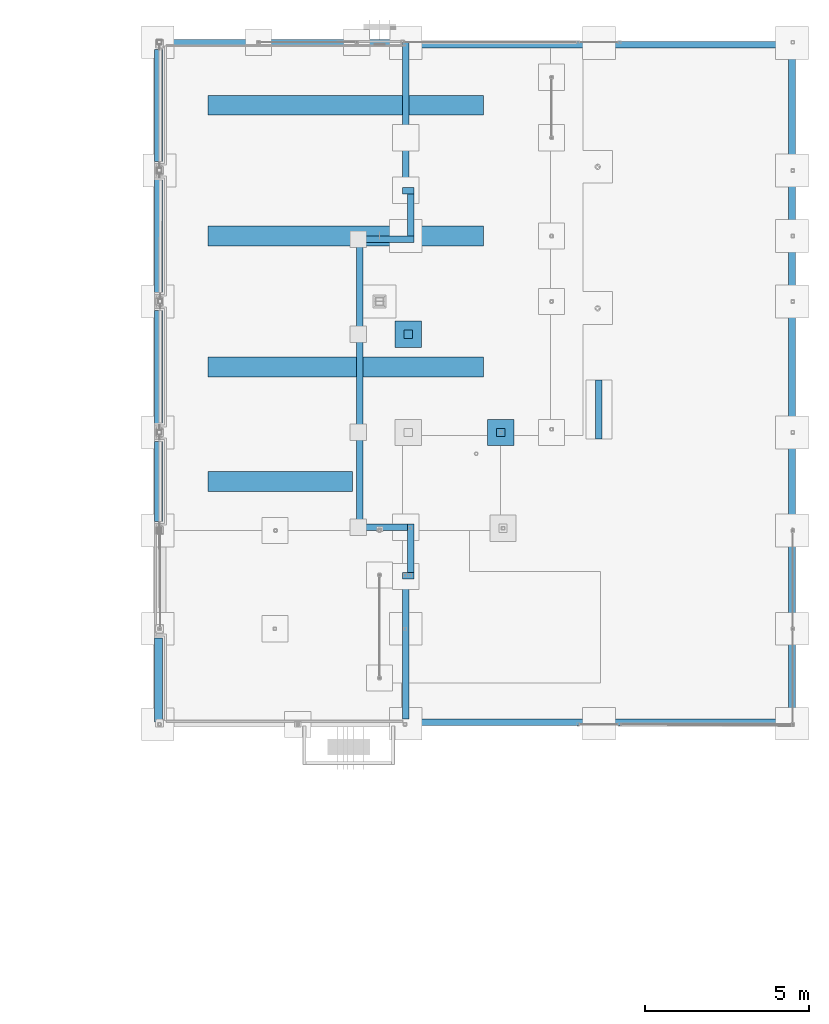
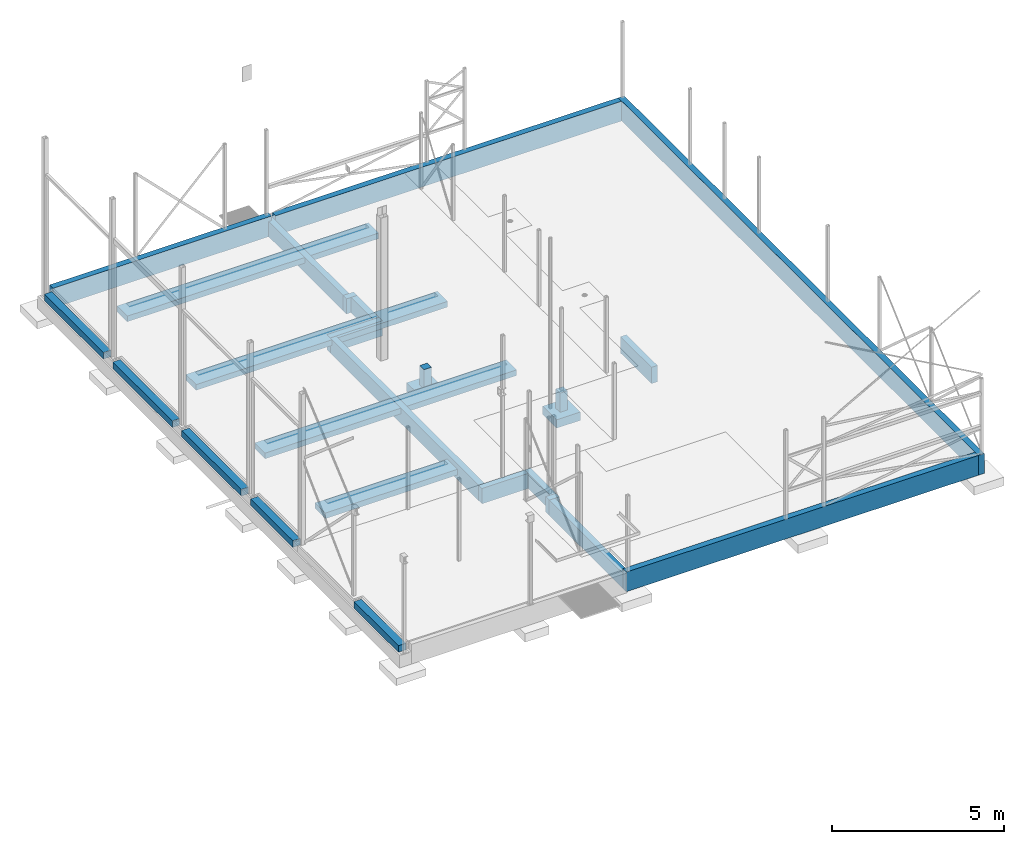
# One storey, part 11 of 18: 23 walls, 2 slabs, 3 openings.
"""IFC2X3 building model written with IfcOpenShell, lengths in millimetres."""

from ifc_helpers import new_model, entity, si_unit, converted_unit, derived_unit, direction, frame, frame_2d, origin, place, context, subcontext, project, spatial, polyline, rectangle, outline, extrude, faceted_brep, material, layer, layer_set, layer_usage, type_object, element, save


model = new_model("IFC2X3")

# Units and contexts
model_context = context("Model", 3, precision=0.01, world=origin(), true_north=direction((6.12303176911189e-17, 1.0)))
body_context = subcontext(model_context, "Body", "Model", "MODEL_VIEW")
ifc_project = project(units=[si_unit("LENGTHUNIT", "METRE", prefix="MILLI"), si_unit("AREAUNIT", "SQUARE_METRE"), si_unit("VOLUMEUNIT", "CUBIC_METRE"), converted_unit("PLANEANGLEUNIT", "DEGREE", entity("IfcRatioMeasure", 0.0174532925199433), si_unit("PLANEANGLEUNIT", "RADIAN"), dimensions=[0, 0, 0, 0, 0, 0, 0]), si_unit("MASSUNIT", "GRAM", prefix="KILO"), derived_unit("MASSDENSITYUNIT", [(si_unit("MASSUNIT", "GRAM", prefix="KILO"), 1), (si_unit("LENGTHUNIT", "METRE"), -3)]), si_unit("TIMEUNIT", "SECOND"), si_unit("FREQUENCYUNIT", "HERTZ"), si_unit("THERMODYNAMICTEMPERATUREUNIT", "DEGREE_CELSIUS"), derived_unit("THERMALTRANSMITTANCEUNIT", [(si_unit("MASSUNIT", "GRAM", prefix="KILO"), 1), (si_unit("THERMODYNAMICTEMPERATUREUNIT", "KELVIN"), -1), (si_unit("TIMEUNIT", "SECOND"), -3)]), derived_unit("VOLUMETRICFLOWRATEUNIT", [(si_unit("LENGTHUNIT", "METRE"), 3), (si_unit("TIMEUNIT", "SECOND"), -1)]), si_unit("ELECTRICCURRENTUNIT", "AMPERE"), si_unit("ELECTRICVOLTAGEUNIT", "VOLT"), si_unit("POWERUNIT", "WATT"), si_unit("FORCEUNIT", "NEWTON", prefix="KILO"), si_unit("ILLUMINANCEUNIT", "LUX"), si_unit("LUMINOUSFLUXUNIT", "LUMEN"), si_unit("LUMINOUSINTENSITYUNIT", "CANDELA"), derived_unit("USERDEFINED", [(si_unit("MASSUNIT", "GRAM", prefix="KILO"), -1), (si_unit("LENGTHUNIT", "METRE"), -2), (si_unit("TIMEUNIT", "SECOND"), 3), (si_unit("LUMINOUSFLUXUNIT", "LUMEN"), 1)]), derived_unit("LINEARVELOCITYUNIT", [(si_unit("LENGTHUNIT", "METRE"), 1), (si_unit("TIMEUNIT", "SECOND"), -1)]), si_unit("PRESSUREUNIT", "PASCAL"), derived_unit("USERDEFINED", [(si_unit("LENGTHUNIT", "METRE"), -2), (si_unit("MASSUNIT", "GRAM", prefix="KILO"), 1), (si_unit("TIMEUNIT", "SECOND"), -2)])], contexts=[model_context])

# Site, building, storey
site_placement = place(None, frame((0.0, 0.0, 101000.0)))
site = spatial("IfcSite", under=ifc_project, at=site_placement, Name="Default", CompositionType="ELEMENT")
building_placement = place(site_placement, origin())
building = spatial("IfcBuilding", under=site, at=building_placement, CompositionType="ELEMENT")
storey_placement = place(building_placement, origin())
storey = spatial("IfcBuildingStorey", under=building, at=storey_placement, Name="01", CompositionType="ELEMENT", Elevation=8.9295595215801e-10)

# Slabs
ifc_material = material(Name="Betong Plasstøpt - B35")
for number, where, name in (
    (1, (13786.2644969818, 32017.9507529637, -1000.0), "Fundament med knast:800x800x300"),
    (2, (10960.9797660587, 35017.9507529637, -1000.0), "Fundament med knast:800x800x300"),
):
    element("IfcSlab", number, at=place(storey_placement, frame(where)), inside=storey, material=ifc_material, Name=name, ObjectType="Fundament med knast:800x800x300", PredefinedType="FLOOR", context=body_context, shape_type="Brep", body=[
        faceted_brep([(800.0, 800.0, 0.0), (800.0, 0.0, 0.0), (0.0, 0.0, 0.0), (0.0, 800.0, 0.0), (800.0, 800.0, 300.0), (800.0, 0.0, 300.0), (0.0, 0.0, 300.0), (0.0, 800.0, 300.0), (525.0, 525.0, 980.0), (275.0, 525.0, 980.0), (275.0, 275.0, 980.0), (525.0, 275.0, 980.0), (525.0, 525.0, 300.0), (275.0, 525.0, 300.0), (275.0, 275.0, 300.0), (525.0, 275.0, 300.0)], [[[0, 1, 2, 3]], [[4, 5, 1, 0]], [[5, 6, 2, 1]], [[6, 7, 3, 2]], [[7, 4, 0, 3]], [[8, 9, 10, 11]], [[9, 8, 12, 13]], [[10, 9, 13, 14]], [[11, 10, 14, 15]], [[8, 11, 15, 12]], [[13, 12, 15, 14], [4, 7, 6, 5]]], outer=[[True], [True], [True], [True], [True], [True], [True], [True], [True], [True], [False, True]]),
    ])

# Walls
ifc_layer_1 = layer(ifc_material, 200.0)
ifc_layer_set_1 = layer_set([ifc_layer_1], Name="Basic Wall:OPPKANT B=200, (140)")
ifc_layer_usage_1 = layer_usage(ifc_layer_set_1, "AXIS2", "NEGATIVE", 100.0)
wall_type_1 = type_object("IfcWallType", Name="Basic Wall:OPPKANT B=200, (140)", PredefinedType="STANDARD", material=ifc_layer_set_1)
wall_1_placement = place(storey_placement, frame((23086.2644969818, 44367.9507529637, -700.0), z_axis=(0.0, 0.0, 1.0), x_axis=(0.0, -1.0, 0.0)))
element("IfcWallStandardCase", 3, at=wall_1_placement, inside=storey, type_object=wall_type_1, material=ifc_layer_usage_1, Name="Basic Wall:OPPKANT B=200, (140)", ObjectType="Basic Wall:OPPKANT B=200, (140)", context=body_context, shape_type="SweptSolid", body=[
    extrude(rectangle(XDim=20900.0, YDim=199.999999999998, at=frame_2d((10450.0, 1.442401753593e-12), x_axis=(-1.0, 0.0))), origin(), (0.0, 0.0, 1.0), 700.0),
])
ifc_layer_usage_2 = layer_usage(ifc_layer_set_1, "AXIS2", "NEGATIVE", 100.0)
wall_2_placement = place(storey_placement, frame((22986.2644969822, 23567.9507529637, -700.0), z_axis=(0.0, 0.0, 1.0), x_axis=(-1.0, 0.0, 0.0)))
element("IfcWallStandardCase", 4, at=wall_2_placement, inside=storey, type_object=wall_type_1, material=ifc_layer_usage_2, Name="Basic Wall:OPPKANT B=200, (140)", ObjectType="Basic Wall:OPPKANT B=200, (140)", context=body_context, shape_type="SweptSolid", body=[
    extrude(rectangle(XDim=11800.0000000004, YDim=199.999999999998, at=frame_2d((5900.0000000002, -3.19744231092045e-13), x_axis=(-1.0, 0.0))), origin(), (0.0, 0.0, 1.0), 700.0),
])
ifc_layer_usage_3 = layer_usage(ifc_layer_set_1, "AXIS2", "NEGATIVE", 100.0)
wall_3_placement = place(storey_placement, frame((11286.2644969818, 23667.9507529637, -700.0), z_axis=(0.0, 0.0, 1.0), x_axis=(0.0, 1.0, 0.0)))
element("IfcWallStandardCase", 5, at=wall_3_placement, inside=storey, type_object=wall_type_1, material=ifc_layer_usage_3, Name="Basic Wall:OPPKANT B=200, (140)", ObjectType="Basic Wall:OPPKANT B=200, (140)", context=body_context, shape_type="SweptSolid", body=[
    extrude(rectangle(XDim=4269.09568612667, YDim=199.999999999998, at=frame_2d((2134.54784306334, -3.97903932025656e-13), x_axis=(-1.0, 0.0))), origin(), (0.0, 0.0, 1.0), 540.0),
])

# Wall, opening
ifc_layer_usage_4 = layer_usage(ifc_layer_set_1, "AXIS2", "NEGATIVE", 100.0)
wall_4_placement = place(storey_placement, frame((11436.2644969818, 28137.0464390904, -700.0), z_axis=(0.0, 0.0, 1.0), x_axis=(0.0, 1.0, 0.0)))
wall_4 = element("IfcWallStandardCase", 6, at=wall_4_placement, inside=storey, type_object=wall_type_1, material=ifc_layer_usage_4, Name="Basic Wall:OPPKANT B=200, (140)", ObjectType="Basic Wall:OPPKANT B=200, (140)", context=body_context, shape_type="SweptSolid", body=[
    extrude(rectangle(XDim=1480.9043138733, YDim=199.999999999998, at=frame_2d((740.45215693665, 0.0), x_axis=(-1.0, 0.0))), origin(), (0.0, 0.0, 1.0), 540.0),
])
opening_1_placement = place(wall_4_placement, frame((-4469.09568612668, 110.0, 420.0)))
element("IfcOpeningElement", 7, at=opening_1_placement, cuts=wall_4, Name="Basic Wall:OPPKANT B=200, (140)", ObjectType="Opening", context=body_context, shape_type="Brep", body=[
    faceted_brep([(0.0, 0.0, 0.0), (0.0, -60.0, 0.0), (0.0, -60.0, 120.0), (0.0, 0.0, 120.0), (4329.09568612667, 0.0, 0.0), (4329.09568612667, 0.0, 120.0), (4269.09568612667, -60.0, 120.0), (4269.09568612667, -60.0, 0.0)], [[[0, 1, 2, 3]], [[4, 5, 6, 7]], [[1, 0, 4, 7]], [[2, 1, 7, 6]], [[3, 2, 6, 5]], [[0, 3, 5, 4]]]),
])

# Walls
ifc_layer_usage_5 = layer_usage(ifc_layer_set_1, "AXIS2", "NEGATIVE", 100.0)
wall_5_placement = place(storey_placement, frame((11186.2644969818, 28037.0464390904, -700.0)))
element("IfcWallStandardCase", 8, at=wall_5_placement, inside=storey, type_object=wall_type_1, material=ifc_layer_usage_5, Name="Basic Wall:OPPKANT B=200, (140)", ObjectType="Basic Wall:OPPKANT B=200, (140)", context=body_context, shape_type="SweptSolid", body=[
    extrude(rectangle(XDim=350.000000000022, YDim=199.999999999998, at=frame_2d((175.000000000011, 0.0), x_axis=(-1.0, 0.0))), origin(), (0.0, 0.0, 1.0), 540.0),
])
ifc_layer_usage_6 = layer_usage(ifc_layer_set_1, "AXIS2", "NEGATIVE", 100.0)
wall_6_placement = place(storey_placement, frame((9886.26449698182, 29617.9507529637, -700.0), z_axis=(0.0, 0.0, 1.0), x_axis=(0.0, 1.0, 0.0)))
element("IfcWallStandardCase", 9, at=wall_6_placement, inside=storey, type_object=wall_type_1, material=ifc_layer_usage_6, Name="Basic Wall:OPPKANT B=200, (140)", ObjectType="Basic Wall:OPPKANT B=200, (140)", context=body_context, shape_type="SweptSolid", body=[
    extrude(rectangle(XDim=8600.0, YDim=199.999999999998, at=frame_2d((4300.0, -3.33955085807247e-13), x_axis=(-1.0, 0.0))), origin(), (0.0, 0.0, 1.0), 540.0),
])
ifc_layer_usage_7 = layer_usage(ifc_layer_set_1, "AXIS2", "NEGATIVE", 100.0)
wall_7_placement = place(storey_placement, frame((9786.26449698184, 38317.9507529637, -700.0)))
element("IfcWallStandardCase", 10, at=wall_7_placement, inside=storey, type_object=wall_type_1, material=ifc_layer_usage_7, Name="Basic Wall:OPPKANT B=200, (140)", ObjectType="Basic Wall:OPPKANT B=200, (140)", context=body_context, shape_type="SweptSolid", body=[
    extrude(rectangle(XDim=1750.00000000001, YDim=199.999999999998, at=frame_2d((875.000000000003, 2.8421709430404e-13), x_axis=(-1.0, 0.0))), origin(), (0.0, 0.0, 1.0), 540.0),
])
ifc_layer_usage_8 = layer_usage(ifc_layer_set_1, "AXIS2", "NEGATIVE", 100.0)
wall_8_placement = place(storey_placement, frame((11336.2644969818, 29517.9507529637, -700.0), z_axis=(0.0, 0.0, 1.0), x_axis=(-1.0, 0.0, 0.0)))
element("IfcWallStandardCase", 11, at=wall_8_placement, inside=storey, type_object=wall_type_1, material=ifc_layer_usage_8, Name="Basic Wall:OPPKANT B=200, (140)", ObjectType="Basic Wall:OPPKANT B=200, (140)", context=body_context, shape_type="SweptSolid", body=[
    extrude(rectangle(XDim=1550.0, YDim=199.999999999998, at=frame_2d((775.0, 3.26849658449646e-13), x_axis=(-1.0, 0.0))), origin(), (0.0, 0.0, 1.0), 540.0),
])
ifc_layer_usage_9 = layer_usage(ifc_layer_set_1, "AXIS2", "NEGATIVE", 100.0)
wall_9_placement = place(storey_placement, frame((11436.2644969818, 38417.9507529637, -700.0), z_axis=(0.0, 0.0, 1.0), x_axis=(0.0, 1.0, 0.0)))
element("IfcWallStandardCase", 12, at=wall_9_placement, inside=storey, type_object=wall_type_1, material=ifc_layer_usage_9, Name="Basic Wall:OPPKANT B=200, (140)", ObjectType="Basic Wall:OPPKANT B=200, (140)", context=body_context, shape_type="SweptSolid", body=[
    extrude(rectangle(XDim=1280.00000000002, YDim=199.999999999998, at=frame_2d((640.00000000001, 0.0), x_axis=(-1.0, 0.0))), origin(), (0.0, 0.0, 1.0), 540.0),
])
ifc_layer_usage_10 = layer_usage(ifc_layer_set_1, "AXIS2", "NEGATIVE", 100.0)
wall_10_placement = place(storey_placement, frame((11536.2644969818, 39797.9507529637, -700.0), z_axis=(0.0, 0.0, 1.0), x_axis=(-1.0, 0.0, 0.0)))
element("IfcWallStandardCase", 13, at=wall_10_placement, inside=storey, type_object=wall_type_1, material=ifc_layer_usage_10, Name="Basic Wall:OPPKANT B=200, (140)", ObjectType="Basic Wall:OPPKANT B=200, (140)", context=body_context, shape_type="SweptSolid", body=[
    extrude(rectangle(XDim=350.000000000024, YDim=200.000000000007, at=frame_2d((175.000000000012, 0.0), x_axis=(-1.0, 0.0))), origin(), (0.0, 0.0, 1.0), 540.0),
])
ifc_layer_usage_11 = layer_usage(ifc_layer_set_1, "AXIS2", "NEGATIVE", 100.0)
wall_11_placement = place(storey_placement, frame((11286.2644969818, 39897.9507529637, -700.0), z_axis=(0.0, 0.0, 1.0), x_axis=(0.0, 1.0, 0.0)))
element("IfcWallStandardCase", 14, at=wall_11_placement, inside=storey, type_object=wall_type_1, material=ifc_layer_usage_11, Name="Basic Wall:OPPKANT B=200, (140)", ObjectType="Basic Wall:OPPKANT B=200, (140)", context=body_context, shape_type="SweptSolid", body=[
    extrude(rectangle(XDim=4469.99999999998, YDim=199.999999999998, at=frame_2d((2234.99999999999, -2.27373675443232e-13), x_axis=(-1.0, 0.0))), origin(), (0.0, 0.0, 1.0), 540.0),
])

# Wall, opening
ifc_layer_usage_12 = layer_usage(ifc_layer_set_1, "AXIS2", "NEGATIVE", 100.0)
wall_12_placement = place(storey_placement, frame((11286.2644969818, 44267.9507529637, -700.0)))
wall_12 = element("IfcWallStandardCase", 15, at=wall_12_placement, inside=storey, type_object=wall_type_1, material=ifc_layer_usage_12, Name="Basic Wall:OPPKANT B=200, (140)", ObjectType="Basic Wall:OPPKANT B=200, (140)", context=body_context, shape_type="SweptSolid", body=[
    extrude(rectangle(XDim=11600.0, YDim=199.999999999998, at=frame_2d((5900.00000000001, 4.04298816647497e-12), x_axis=(-1.0, 0.0))), origin(), (0.0, 0.0, 1.0), 700.0),
])
opening_2_placement = place(wall_12_placement, frame((40.0, -4430.0, 420.0)))
element("IfcOpeningElement", 16, at=opening_2_placement, cuts=wall_12, Name="Basic Wall:OPPKANT B=200, (140)", ObjectType="Opening", context=body_context, shape_type="Brep", body=[
    faceted_brep([(0.0, 0.0, 0.0), (60.0, 60.0, 0.0), (60.0, 60.0, 120.0), (0.0, 0.0, 120.0), (0.0, 4380.0, 0.0), (0.0, 4380.0, 120.0), (60.0, 4380.0, 120.0), (60.0, 4380.0, 0.0)], [[[0, 1, 2, 3]], [[4, 5, 6, 7]], [[1, 0, 4, 7]], [[2, 1, 7, 6]], [[3, 2, 6, 5]], [[0, 3, 5, 4]]]),
])

# Walls
ifc_layer_2 = layer(ifc_material, 200.0)
ifc_layer_set_2 = layer_set([ifc_layer_2], Name="Basic Wall:BETONG 200")
ifc_layer_usage_13 = layer_usage(ifc_layer_set_2, "AXIS2", "NEGATIVE", 100.0)
wall_type_2 = type_object("IfcWallType", Name="Basic Wall:BETONG 200", PredefinedType="STANDARD", material=ifc_layer_set_2)
wall_13_placement = place(storey_placement, frame((17186.2644969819, 32217.9507529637, -700.0), z_axis=(0.0, 0.0, 1.0), x_axis=(0.0, 1.0, 0.0)))
element("IfcWallStandardCase", 17, at=wall_13_placement, inside=storey, type_object=wall_type_2, material=ifc_layer_usage_13, Name="Basic Wall:BETONG 200", ObjectType="Basic Wall:BETONG 200", context=body_context, shape_type="SweptSolid", body=[
    extrude(rectangle(XDim=1800.00000000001, YDim=199.999999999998, at=frame_2d((900.000000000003, 0.0), x_axis=(-1.0, 0.0))), origin(), (0.0, 0.0, 1.0), 580.0),
])
ifc_layer_3 = layer(ifc_material, 200.0)
ifc_layer_set_3 = layer_set([ifc_layer_3], Name="Basic Wall:OPPKANT B=200")
ifc_layer_usage_14 = layer_usage(ifc_layer_set_3, "AXIS2", "NEGATIVE", 100.0)
wall_type_3 = type_object("IfcWallType", Name="Basic Wall:OPPKANT B=200", PredefinedType="STANDARD", material=ifc_layer_set_3)
wall_14_placement = place(storey_placement, frame((3961.26449698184, 44317.9507529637, -700.0)))
element("IfcWallStandardCase", 18, at=wall_14_placement, inside=storey, type_object=wall_type_3, material=ifc_layer_usage_14, Name="Basic Wall:OPPKANT B=200", ObjectType="Basic Wall:OPPKANT B=200", context=body_context, shape_type="SweptSolid", body=[
    extrude(rectangle(XDim=7324.99999999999, YDim=200.000000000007, at=frame_2d((3662.49999999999, 6.25277607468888e-13), x_axis=(-1.0, 0.0))), origin(), (0.0, 0.0, 1.0), 700.0),
])
ifc_layer_4 = layer(ifc_material, 250.0)
ifc_layer_set_4 = layer_set([ifc_layer_4], Name="Basic Wall:OPPKANT B=250+50")
ifc_layer_usage_15 = layer_usage(ifc_layer_set_4, "AXIS2", "POSITIVE", -125.0)
wall_type_4 = type_object("IfcWallType", Name="Basic Wall:OPPKANT B=250+50", PredefinedType="STANDARD", material=ifc_layer_set_4)
wall_15_placement = place(storey_placement, frame((3736.26449698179, 32142.9507529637, -250.0), z_axis=(0.0, 0.0, 1.0), x_axis=(0.0, -1.0, 0.0)))
element("IfcWallStandardCase", 19, at=wall_15_placement, inside=storey, type_object=wall_type_4, material=ifc_layer_usage_15, Name="Basic Wall:OPPKANT B=250+50", ObjectType="Basic Wall:OPPKANT B=250+50", context=body_context, shape_type="SweptSolid", body=[
    extrude(rectangle(XDim=2450.00000000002, YDim=249.999999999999, at=frame_2d((1225.00000000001, -2.06057393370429e-13), x_axis=(-1.0, 0.0))), origin(), (0.0, 0.0, 1.0), 235.0),
])
ifc_layer_usage_16 = layer_usage(ifc_layer_set_4, "AXIS2", "NEGATIVE", 125.0)
wall_16_placement = place(storey_placement, frame((3736.26449698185, 32692.9507529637, -250.0), z_axis=(0.0, 0.0, 1.0), x_axis=(0.0, 1.0, 0.0)))
element("IfcWallStandardCase", 20, at=wall_16_placement, inside=storey, type_object=wall_type_4, material=ifc_layer_usage_16, Name="Basic Wall:OPPKANT B=250+50", ObjectType="Basic Wall:OPPKANT B=250+50", context=body_context, shape_type="SweptSolid", body=[
    extrude(rectangle(XDim=3450.0, YDim=249.999999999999, at=frame_2d((1725.0, 0.0), x_axis=(-1.0, 0.0))), origin(), (0.0, 0.0, 1.0), 235.0),
])
ifc_layer_usage_17 = layer_usage(ifc_layer_set_4, "AXIS2", "NEGATIVE", 125.0)
wall_17_placement = place(storey_placement, frame((3736.26449698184, 36692.9507529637, -250.0), z_axis=(0.0, 0.0, 1.0), x_axis=(0.0, 1.0, 0.0)))
element("IfcWallStandardCase", 21, at=wall_17_placement, inside=storey, type_object=wall_type_4, material=ifc_layer_usage_17, Name="Basic Wall:OPPKANT B=250+50", ObjectType="Basic Wall:OPPKANT B=250+50", context=body_context, shape_type="SweptSolid", body=[
    extrude(rectangle(XDim=3450.00000000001, YDim=249.999999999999, at=frame_2d((1725.00000000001, 0.0), x_axis=(-1.0, 0.0))), origin(), (0.0, 0.0, 1.0), 235.0),
])
ifc_layer_usage_18 = layer_usage(ifc_layer_set_4, "AXIS2", "NEGATIVE", 125.0)
wall_18_placement = place(storey_placement, frame((3736.26449698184, 40692.9507529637, -250.0), z_axis=(0.0, 0.0, 1.0), x_axis=(0.0, 1.0, 0.0)))
element("IfcWallStandardCase", 22, at=wall_18_placement, inside=storey, type_object=wall_type_4, material=ifc_layer_usage_18, Name="Basic Wall:OPPKANT B=250+50", ObjectType="Basic Wall:OPPKANT B=250+50", context=body_context, shape_type="SweptSolid", body=[
    extrude(rectangle(XDim=3420.0, YDim=249.999999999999, at=frame_2d((1710.0, -3.5527136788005e-14), x_axis=(-1.0, 0.0))), origin(), (0.0, 0.0, 1.0), 235.0),
])
ifc_layer_usage_19 = layer_usage(ifc_layer_set_4, "AXIS2", "NEGATIVE", 125.0)
wall_19_placement = place(storey_placement, frame((3735.98233689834, 23567.9507529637, -250.0), z_axis=(0.0, 0.0, 1.0), x_axis=(0.0, 1.0, 0.0)))
element("IfcWallStandardCase", 23, at=wall_19_placement, inside=storey, type_object=wall_type_4, material=ifc_layer_usage_19, Name="Basic Wall:OPPKANT B=250+50", ObjectType="Basic Wall:OPPKANT B=250+50", context=body_context, shape_type="SweptSolid", body=[
    extrude(rectangle(XDim=2575.00000000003, YDim=249.999999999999, at=frame_2d((1287.50000000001, 0.0), x_axis=(-1.0, 0.0))), origin(), (0.0, 0.0, 1.0), 235.0),
])
ifc_layer_5 = layer(ifc_material, 600.0)
ifc_layer_set_5 = layer_set([ifc_layer_5], Name="Basic Wall:ACODRAIN 200")
ifc_layer_usage_20 = layer_usage(ifc_layer_set_5, "AXIS2", "NEGATIVE", 300.0)
wall_type_5 = type_object("IfcWallType", Name="Basic Wall:ACODRAIN 200", PredefinedType="STANDARD", material=ifc_layer_set_5)
wall_20_placement = place(storey_placement, frame((5236.31887653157, 42417.9507529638, -360.0)))
element("IfcWallStandardCase", 24, at=wall_20_placement, inside=storey, type_object=wall_type_5, material=ifc_layer_usage_20, Name="Basic Wall:ACODRAIN 200", ObjectType="Basic Wall:ACODRAIN 200", context=body_context, shape_type="SweptSolid", body=[
    extrude(rectangle(XDim=8425.00000000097, YDim=600.000000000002, at=frame_2d((4212.50000000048, 6.53699316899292e-13), x_axis=(-1.0, 0.0))), origin(), (0.0, 0.0, 1.0), 200.000000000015),
])
ifc_layer_usage_21 = layer_usage(ifc_layer_set_5, "AXIS2", "NEGATIVE", 300.0)
wall_21_placement = place(storey_placement, frame((5236.31887653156, 38417.9507529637, -360.0)))
element("IfcWallStandardCase", 25, at=wall_21_placement, inside=storey, type_object=wall_type_5, material=ifc_layer_usage_21, Name="Basic Wall:ACODRAIN 200", ObjectType="Basic Wall:ACODRAIN 200", context=body_context, shape_type="SweptSolid", body=[
    extrude(rectangle(XDim=8425.00000000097, YDim=600.000000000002, at=frame_2d((4212.50000000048, 6.53699316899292e-13), x_axis=(-1.0, 0.0))), origin(), (0.0, 0.0, 1.0), 200.000000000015),
])

# Wall, opening
ifc_layer_usage_22 = layer_usage(ifc_layer_set_5, "AXIS2", "NEGATIVE", 300.0)
wall_22_placement = place(storey_placement, frame((5236.31887653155, 34417.9507529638, -360.0)))
wall_22 = element("IfcWallStandardCase", 26, at=wall_22_placement, inside=storey, type_object=wall_type_5, material=ifc_layer_usage_22, Name="Basic Wall:ACODRAIN 200", ObjectType="Basic Wall:ACODRAIN 200", context=body_context, shape_type="SweptSolid", body=[
    extrude(rectangle(XDim=8425.00000000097, YDim=600.000000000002, at=frame_2d((4212.50000000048, 6.53699316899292e-13), x_axis=(-1.0, 0.0))), origin(), (0.0, 0.0, 1.0), 200.00000000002),
])
opening_3_placement = place(storey_placement, frame((5236.31887653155, 34417.9507529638, -360.0)))
element("IfcOpeningElement", 27, at=opening_3_placement, cuts=wall_22, Name="Basic Wall:ACODRAIN 200:1", ObjectType="Opening", context=body_context, shape_type="SweptSolid", body=[
    extrude(outline(polyline([(-300.0, -100.0), (300.0, -100.0), (100.0, 100.0), (-100.0, 100.0), (-300.0, -100.0)])), frame((4549.94562045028, 0.0, 100.0), z_axis=(1.0, 0.0, 0.0), x_axis=(0.0, -1.0, 0.0)), (0.0, 0.0, 1.0), 200.0),
])

# Wall
ifc_layer_usage_23 = layer_usage(ifc_layer_set_5, "AXIS2", "NEGATIVE", 300.0)
wall_23_placement = place(storey_placement, frame((5236.31887653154, 30917.9507529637, -360.0)))
element("IfcWallStandardCase", 28, at=wall_23_placement, inside=storey, type_object=wall_type_5, material=ifc_layer_usage_23, Name="Basic Wall:ACODRAIN 200", ObjectType="Basic Wall:ACODRAIN 200", context=body_context, shape_type="SweptSolid", body=[
    extrude(rectangle(XDim=4425.00000000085, YDim=600.000000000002, at=frame_2d((2212.50000000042, 6.53699316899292e-13), x_axis=(-1.0, 0.0))), origin(), (0.0, 0.0, 1.0), 200.000000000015),
])

save(model, "model.ifc")
